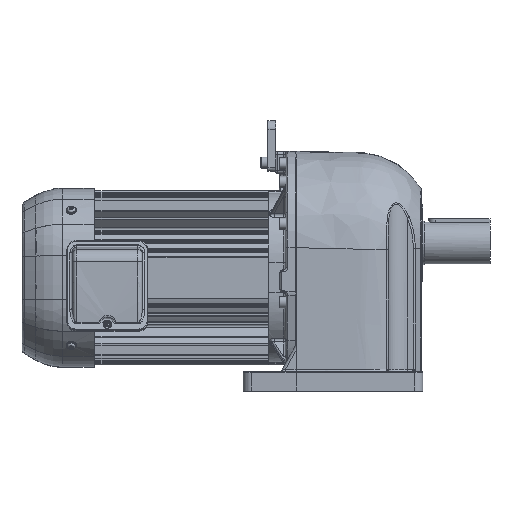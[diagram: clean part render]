
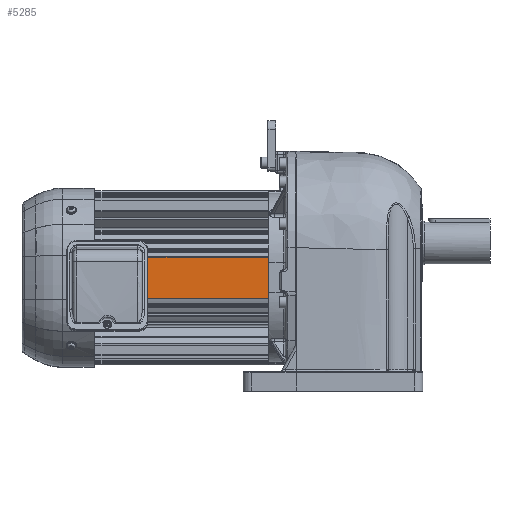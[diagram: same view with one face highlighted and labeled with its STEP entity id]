
A CAD part, front view. The second image highlights one B-rep face of the part: STEP entity #5285.
In plain terms, the highlighted planar face has unit normal (0, -1, 0).
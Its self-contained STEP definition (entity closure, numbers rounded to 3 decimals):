
#5285 = ADVANCED_FACE( '', ( #11159 ), #11160, .F. );
#11159 = FACE_OUTER_BOUND( '', #28161, .T. );
#11160 = PLANE( '', #28162 );
#28161 = EDGE_LOOP( '', ( #44497, #44498, #44499, #44500 ) );
#28162 = AXIS2_PLACEMENT_3D( '', #44501, #44502, #44503 );
#44497 = ORIENTED_EDGE( '', *, *, #51513, .F. );
#44498 = ORIENTED_EDGE( '', *, *, #47586, .T. );
#44499 = ORIENTED_EDGE( '', *, *, #46510, .T. );
#44500 = ORIENTED_EDGE( '', *, *, #51936, .T. );
#44501 = CARTESIAN_POINT( '', ( -219.184, -245.279, -23.5 ) );
#44502 = DIRECTION( '', ( 0., 1., 0. ) );
#44503 = DIRECTION( '', ( 0., 0., 1. ) );
#46510 = EDGE_CURVE( '', #52879, #52877, #52880, .T. );
#47586 = EDGE_CURVE( '', #54787, #52879, #54791, .T. );
#51513 = EDGE_CURVE( '', #54787, #60413, #60416, .T. );
#51936 = EDGE_CURVE( '', #52877, #60413, #60906, .T. );
#52877 = VERTEX_POINT( '', #61981 );
#52879 = VERTEX_POINT( '', #61983 );
#52880 = LINE( '', #61984, #61985 );
#54787 = VERTEX_POINT( '', #65250 );
#54791 = CIRCLE( '', #65254, 24. );
#60413 = VERTEX_POINT( '', #76937 );
#60416 = LINE( '', #76941, #76942 );
#60906 = LINE( '', #77874, #77875 );
#61981 = CARTESIAN_POINT( '', ( 0.816, -245.279, -23.5 ) );
#61983 = CARTESIAN_POINT( '', ( -179.31, -245.279, -23.5 ) );
#61984 = CARTESIAN_POINT( '', ( -219.184, -245.279, -23.5 ) );
#61985 = VECTOR( '', #79072, 1000. );
#65250 = CARTESIAN_POINT( '', ( -179.31, -245.279, 23.5 ) );
#65254 = AXIS2_PLACEMENT_3D( '', #80883, #80884, #80885 );
#76937 = CARTESIAN_POINT( '', ( 0.816, -245.279, 23.5 ) );
#76941 = CARTESIAN_POINT( '', ( -219.184, -245.279, 23.5 ) );
#76942 = VECTOR( '', #86205, 1000. );
#77874 = CARTESIAN_POINT( '', ( 0.816, -245.279, -23.5 ) );
#77875 = VECTOR( '', #86650, 1000. );
#79072 = DIRECTION( '', ( 1., 0., 0. ) );
#80883 = CARTESIAN_POINT( '', ( -184.184, -245.279, 0. ) );
#80884 = DIRECTION( '', ( 0., 1., 0. ) );
#80885 = DIRECTION( '', ( -1., 0., 0. ) );
#86205 = DIRECTION( '', ( 1., 0., 0. ) );
#86650 = DIRECTION( '', ( 0., 0., 1. ) );
